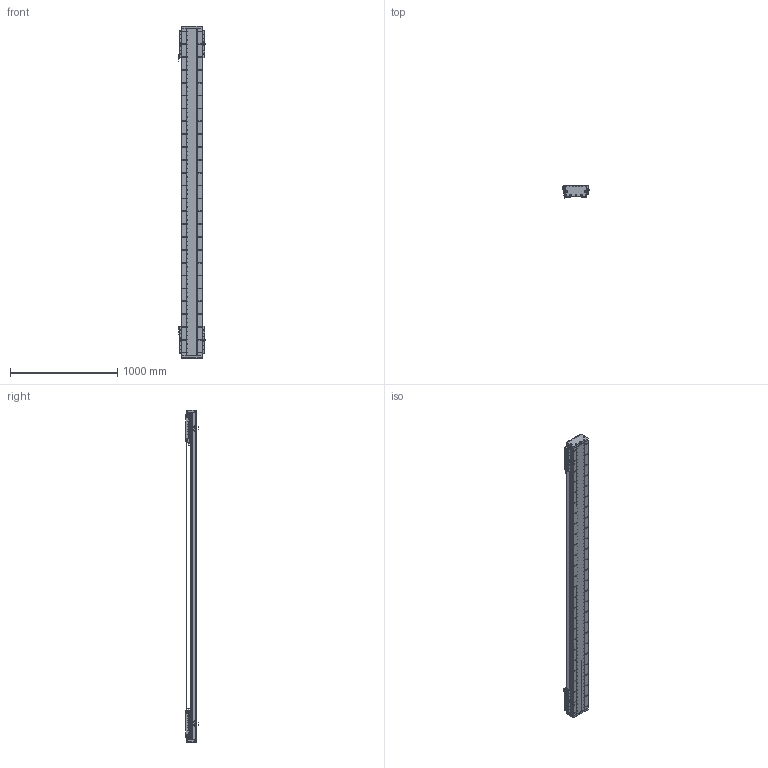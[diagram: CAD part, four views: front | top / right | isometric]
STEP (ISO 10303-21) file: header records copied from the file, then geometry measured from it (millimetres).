
FILE_DESCRIPTION (( 'STEP AP203' ), '1' );
FILE_NAME ('DA-C195-2-C3-T2480-C010-0.2 眻盄萇儂.STEP', '2025-08-15T00:50:24', ( '' ), ( '' ), 'SwSTEP 2.0', 'SolidWorks 2019', '' );
FILE_SCHEMA (( 'CONFIG_CONTROL_DESIGN' ));
Length unit declared in the file: millimetre
Products named in the file (19): PM-T45ㄗ侂狟ㄘ; LMT黍杅芛; DA95-HXJ-00 遣喳砎蝶; DA195詩湍菜輸; DA-C195-GD-DB-H-00 傷啣; IU-CU195-L 菁釱絳寢; DA165-GYP-00 光电感应片(默认); DA195詩湍裔啣; 葩璃 DA95-GT-T-00; DKW-KGZ-ZJ-00 中间光电开关支架; MS200 棠掑喜S315-T240; DA-C195-2-C3-T2480-C010-0.2 眻盄萇儂; CU195-C3賑輸-俋楷; DA195詩湍郪璃; PM-Y65嫖萇羲壽郪璃; IU-CU195-L-00 菁釱(L3060); DKW168-HXJ-ZJ-00 笢潔滅袉砎蝶; DA195詩湍嶺輸; DKW-GYP-ZJ-00 笢潔嫖萇覜茼え
Assembly tree (37 placements, depth 3):
  DA-C195-2-C3-T2480-C010-0.2 眻盄萇儂
    DA195詩湍郪璃
      DA195詩湍菜輸  x2
      DA195詩湍裔啣
      DA195詩湍嶺輸  x2
      DA95-HXJ-00 遣喳砎蝶  x8
      DA-C195-GD-DB-H-00 傷啣  x2
    IU-CU195-L 菁釱絳寢
      IU-CU195-L-00 菁釱(L3060)
      葩璃 DA95-GT-T-00  x4
    LMT黍杅芛  x2
    MS200 棠掑喜S315-T240
    PM-T45ㄗ侂狟ㄘ  x4
    DA165-GYP-00 光电感应片(默认)  x2
    PM-Y65嫖萇羲壽郪璃
    DKW168-HXJ-ZJ-00 笢潔滅袉砎蝶
    DKW-GYP-ZJ-00 笢潔嫖萇覜茼え
    DKW-KGZ-ZJ-00 中间光电开关支架
    CU195-C3賑輸-俋楷  x2
Bounding box: 258.2 x 115.45 x 3100 mm (x, y, z)
Volume: 19435567.2 mm3; surface area: 5623587.1 mm2
Topology: 154 solids, 218 shells, 7101 faces, 19239 edges, 12021 vertices
Faces by surface type: cylinder 3490, plane 2559, cone 884, torus 88, sphere 72, bspline 8
Entity records: 160695 total; most frequent: CARTESIAN_POINT 44357, ORIENTED_EDGE 24494, DIRECTION 23064, EDGE_CURVE 12247, AXIS2_PLACEMENT_3D 8509, VERTEX_POINT 7946, VECTOR 6046, LINE 6046
